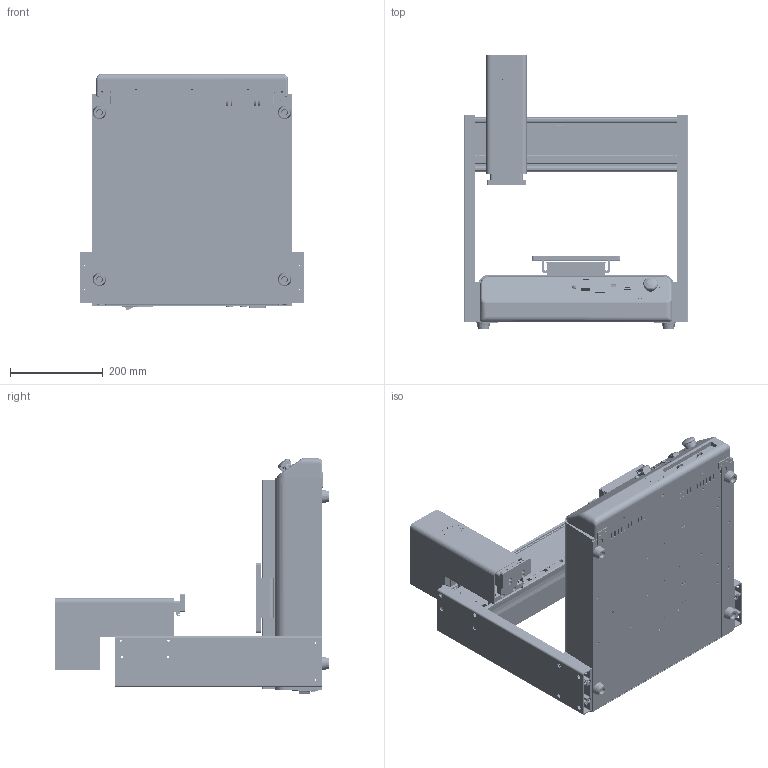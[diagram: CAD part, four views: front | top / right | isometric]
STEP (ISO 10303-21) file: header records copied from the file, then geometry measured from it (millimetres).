
FILE_DESCRIPTION(/* description */ (''),/* implementation_level */ '2;1');
FILE_NAME(/* name */ 'A:\1PD&D\Henkel Robots Project\2104799 300D Benchtop Robot\2104799 EQ RB40 300D Benchtop Robot 3D\2104799 EQ RB40 300D Benchtop Robot .stp',/* time_stamp */ '2016-09-13T14:55:24-04:00',/* author */ ('Gary'),/* organization */ (''),/* preprocessor_version */ 'ST-DEVELOPER v15.6',/* originating_system */ 'Autodesk Inventor 2015',/* authorisation */ '');
FILE_SCHEMA (('AUTOMOTIVE_DESIGN { 1 0 10303 214 3 1 1 }'));
Products named in the file (6): 8906111 EQ RB40 300D Benchtop Robot Item & Serial Number Label; 988341 Rev C Spare Parts and Service Label; 2104799 Purge Button With Guard; 8904215 Warning Label Do Not Plug - Unplug With Power On; 8906109 EQ RB40 300D Benchtop Robot Sub-Assembly; 2104799 EQ RB40 300D Benchtop Robot 
Bounding box: 485 x 592.5 x 509.76 mm (x, y, z)
Volume: 6564867.2 mm3; surface area: 3375748.4 mm2
Topology: 30 solids, 38 shells, 12496 faces, 33601 edges, 22336 vertices
Faces by surface type: plane 7380, bspline 3744, cylinder 1336, cone 32, torus 3, sphere 1
Full cylindrical faces by diameter (mm): 0.567 x18, 1 x21, 1.23 x15, 1.5 x2, 2 x6, 2.5 x9, 2.6 x27, 3 x8, 3.3 x129, 3.5 x18, 4 x26, 4.2 x47, 4.3 x4, 4.5 x61, 5 x13, 5.2 x13, 5.5 x44, 6 x15, 6.665 x1, 7.5 x2, 7.6 x4, 8 x47, 8.4 x1, 8.5 x2, 9 x3, 9.254 x1, 9.5 x40, 9.6 x1, 10 x2, 11 x3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
Entity records: 425245 total; most frequent: CARTESIAN_POINT 124246, ORIENTED_EDGE 65573, DIRECTION 45593, EDGE_CURVE 32815, LINE 22335, VECTOR 22335, VERTEX_POINT 22250, EDGE_LOOP 15175
